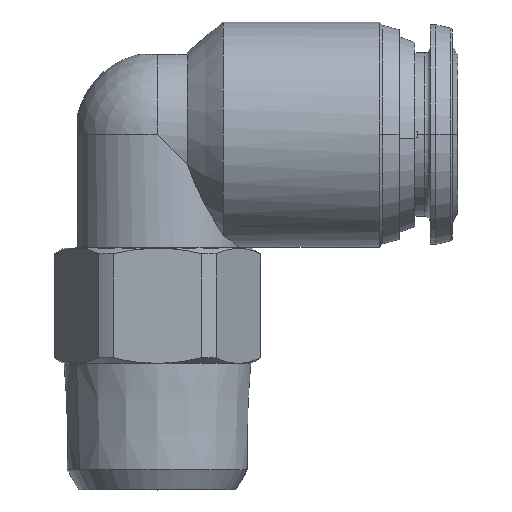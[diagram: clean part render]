
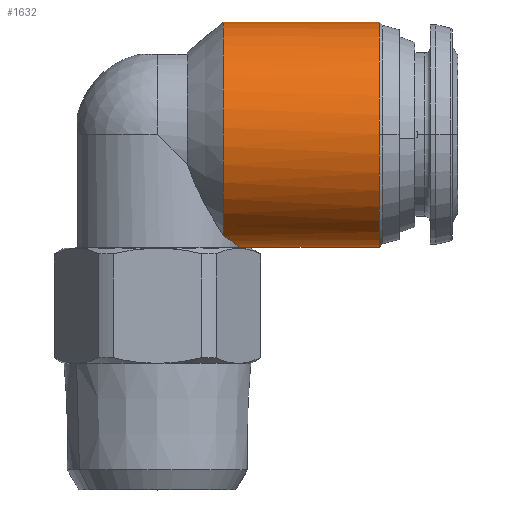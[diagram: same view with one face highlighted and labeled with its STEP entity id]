
A CAD part, top view. The second image highlights one B-rep face of the part: STEP entity #1632.
In plain terms, the highlighted cylindrical face has radius 10.25 mm (diameter 20.5 mm), a partial arc.
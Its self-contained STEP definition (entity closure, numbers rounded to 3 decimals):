
#183 = AXIS2_PLACEMENT_3D ( 'NONE', #1946, #545, #1337 ) ;
#256 = CARTESIAN_POINT ( 'NONE',  ( 7.231, 0.195, 2.03 ) ) ;
#308 = EDGE_CURVE ( 'NONE', #3140, #1045, #353, .T. ) ;
#353 = LINE ( 'NONE', #1454, #3528 ) ;
#387 = CARTESIAN_POINT ( 'NONE',  ( 20.202, 0., 0. ) ) ;
#408 = CARTESIAN_POINT ( 'NONE',  ( 22., 20.5, 0. ) ) ;
#417 = AXIS2_PLACEMENT_3D ( 'NONE', #736, #639, #2954 ) ;
#426 = EDGE_CURVE ( 'NONE', #2007, #1687, #2660, .T. ) ;
#486 = DIRECTION ( 'NONE',  ( 0., 0., 1. ) ) ;
#517 = ORIENTED_EDGE ( 'NONE', *, *, #2575, .T. ) ;
#545 = DIRECTION ( 'NONE',  ( 1., 0., 0. ) ) ;
#573 = ORIENTED_EDGE ( 'NONE', *, *, #3553, .T. ) ;
#639 = DIRECTION ( 'NONE',  ( -1., 0., 0. ) ) ;
#720 = CIRCLE ( 'NONE', #417, 10.25 ) ;
#736 = CARTESIAN_POINT ( 'NONE',  ( 20.202, 10.25, 0. ) ) ;
#767 = FACE_OUTER_BOUND ( 'NONE', #3416, .T. ) ;
#813 = CARTESIAN_POINT ( 'NONE',  ( 6.717, 0.558, 3.342 ) ) ;
#850 = CARTESIAN_POINT ( 'NONE',  ( 6., 1.041, 4.5 ) ) ;
#892 = AXIS2_PLACEMENT_3D ( 'NONE', #3128, #2846, #486 ) ;
#947 = VERTEX_POINT ( 'NONE', #850 ) ;
#972 = CARTESIAN_POINT ( 'NONE',  ( 6., 20.5, 0. ) ) ;
#1037 = CARTESIAN_POINT ( 'NONE',  ( 7.331, 0.123, 1.637 ) ) ;
#1041 = DIRECTION ( 'NONE',  ( 0., 1., 0. ) ) ;
#1045 = VERTEX_POINT ( 'NONE', #387 ) ;
#1073 = CARTESIAN_POINT ( 'NONE',  ( 6.441, 0.748, 3.862 ) ) ;
#1233 = DIRECTION ( 'NONE',  ( 1., 0., 0. ) ) ;
#1274 = ORIENTED_EDGE ( 'NONE', *, *, #308, .T. ) ;
#1337 = DIRECTION ( 'NONE',  ( 0., 1., 0. ) ) ;
#1350 = CARTESIAN_POINT ( 'NONE',  ( 6.803, 0.498, 3.163 ) ) ;
#1362 = CIRCLE ( 'NONE', #892, 10.25 ) ;
#1454 = CARTESIAN_POINT ( 'NONE',  ( 22., 0., 0. ) ) ;
#1491 = DIRECTION ( 'NONE',  ( 1., 0., 0. ) ) ;
#1632 = ADVANCED_FACE ( 'NONE', ( #767 ), #1668, .T. ) ;
#1668 = CYLINDRICAL_SURFACE ( 'NONE', #2037, 10.25 ) ;
#1674 = CIRCLE ( 'NONE', #183, 10.25 ) ;
#1684 = CARTESIAN_POINT ( 'NONE',  ( 7.035, 0.335, 2.607 ) ) ;
#1687 = VERTEX_POINT ( 'NONE', #3054 ) ;
#1880 = DIRECTION ( 'NONE',  ( 1., 0., 0. ) ) ;
#1942 = CARTESIAN_POINT ( 'NONE',  ( 6.962, 0.387, 2.797 ) ) ;
#1946 = CARTESIAN_POINT ( 'NONE',  ( 6., 10.25, 0. ) ) ;
#1962 = CARTESIAN_POINT ( 'NONE',  ( 6.233, 0.889, 4.19 ) ) ;
#1980 = ORIENTED_EDGE ( 'NONE', *, *, #426, .F. ) ;
#1994 = CARTESIAN_POINT ( 'NONE',  ( 7.5, 0., 0. ) ) ;
#2007 = VERTEX_POINT ( 'NONE', #972 ) ;
#2037 = AXIS2_PLACEMENT_3D ( 'NONE', #3379, #1880, #1041 ) ;
#2078 = ORIENTED_EDGE ( 'NONE', *, *, #3072, .T. ) ;
#2196 = CARTESIAN_POINT ( 'NONE',  ( 7.5, 0., 0.209 ) ) ;
#2233 = CARTESIAN_POINT ( 'NONE',  ( 7.431, 0.05, 1.034 ) ) ;
#2575 = EDGE_CURVE ( 'NONE', #1045, #2915, #720, .T. ) ;
#2585 = B_SPLINE_CURVE_WITH_KNOTS ( 'NONE', 3,
 ( #3336, #1962, #1073, #813, #1350, #1942, #1684, #256, #1037, #2233, #2823, #3693, #2196, #3715 ),
 .UNSPECIFIED., .F., .F.,
 ( 4, 2, 2, 2, 2, 2, 4 ),
 ( 0.032, 0.033, 0.034, 0.034, 0.035, 0.036, 0.037 ),
 .UNSPECIFIED. ) ;
#2660 = LINE ( 'NONE', #408, #2742 ) ;
#2742 = VECTOR ( 'NONE', #1233, 1000. ) ;
#2756 = CARTESIAN_POINT ( 'NONE',  ( 20.202, 10.25, 10.25 ) ) ;
#2823 = CARTESIAN_POINT ( 'NONE',  ( 7.457, 0.032, 0.83 ) ) ;
#2846 = DIRECTION ( 'NONE',  ( -1., 0., 0. ) ) ;
#2915 = VERTEX_POINT ( 'NONE', #2756 ) ;
#2954 = DIRECTION ( 'NONE',  ( 0., 0., 1. ) ) ;
#3054 = CARTESIAN_POINT ( 'NONE',  ( 20.202, 20.5, 0. ) ) ;
#3072 = EDGE_CURVE ( 'NONE', #2915, #1687, #1362, .T. ) ;
#3099 = EDGE_CURVE ( 'NONE', #2007, #947, #1674, .T. ) ;
#3128 = CARTESIAN_POINT ( 'NONE',  ( 20.202, 10.25, 0. ) ) ;
#3140 = VERTEX_POINT ( 'NONE', #1994 ) ;
#3336 = CARTESIAN_POINT ( 'NONE',  ( 6., 1.041, 4.5 ) ) ;
#3379 = CARTESIAN_POINT ( 'NONE',  ( 22., 10.25, 0. ) ) ;
#3416 = EDGE_LOOP ( 'NONE', ( #573, #1274, #517, #2078, #1980, #3677 ) ) ;
#3528 = VECTOR ( 'NONE', #1491, 1000. ) ;
#3553 = EDGE_CURVE ( 'NONE', #947, #3140, #2585, .T. ) ;
#3677 = ORIENTED_EDGE ( 'NONE', *, *, #3099, .T. ) ;
#3693 = CARTESIAN_POINT ( 'NONE',  ( 7.491, 0.006, 0.418 ) ) ;
#3715 = CARTESIAN_POINT ( 'NONE',  ( 7.5, 0., 0. ) ) ;
